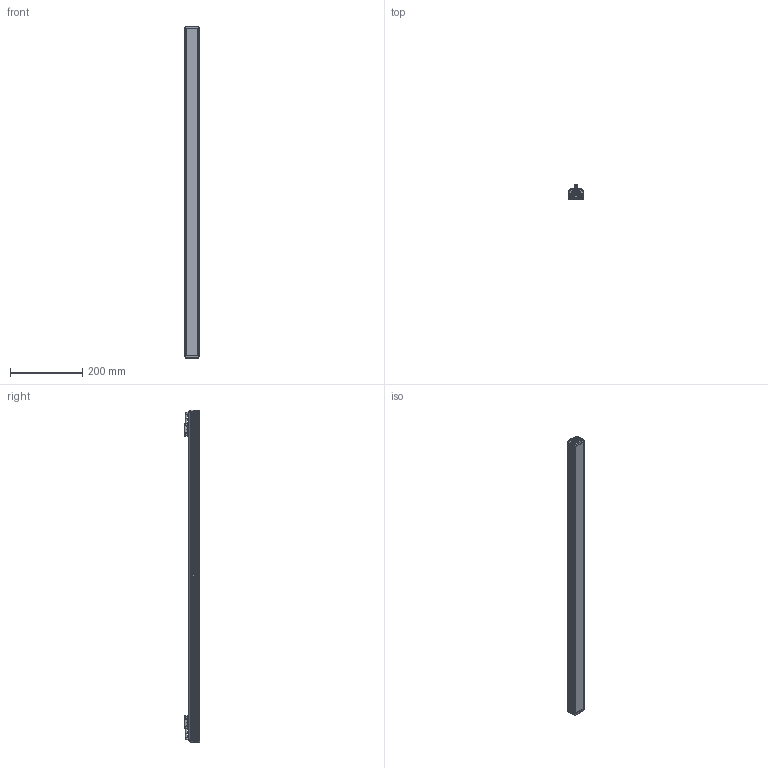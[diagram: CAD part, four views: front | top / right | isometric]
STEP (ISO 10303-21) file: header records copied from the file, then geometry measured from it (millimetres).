
FILE_DESCRIPTION((''),'2;1');
FILE_NAME('PRT0001','2023-02-22T16:54:44',('huguozhe'),(''),'CREO PARAMETRIC BY PTC INC, 2020044','CREO PARAMETRIC BY PTC INC, 2020044','');
FILE_SCHEMA(('AUTOMOTIVE_DESIGN { 1 0 10303 214 1 1 1 1 }'));
Products named in the file (1): PRT0001
Bounding box: 40 x 42.65 x 918 mm (x, y, z)
Volume: 488797.6 mm3; surface area: 406030 mm2
Topology: 3 solids, 71 shells, 2569 faces, 6883 edges, 4368 vertices
Faces by surface type: plane 1552, cylinder 443, cone 330, extrusion 148, torus 64, bspline 16, sphere 16
Entity records: 93816 total; most frequent: CARTESIAN_POINT 20714, ORIENTED_EDGE 13518, DIRECTION 12508, EDGE_CURVE 6839, VECTOR 4552, LINE 4404, VERTEX_POINT 4368, AXIS2_PLACEMENT_3D 3978
